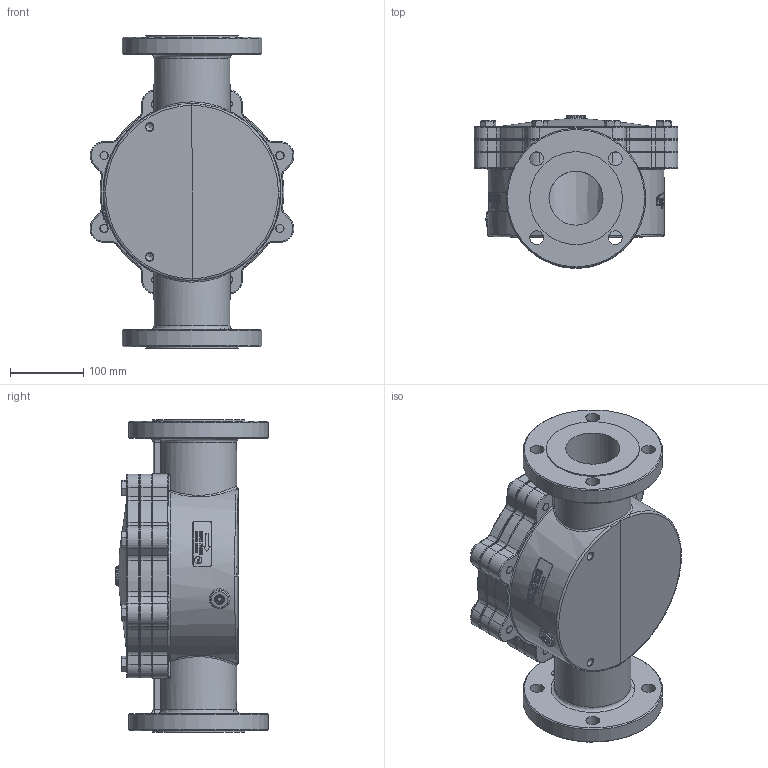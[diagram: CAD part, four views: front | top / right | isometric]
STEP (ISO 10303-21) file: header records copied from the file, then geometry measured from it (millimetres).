
FILE_DESCRIPTION(/* description */ (''),/* implementation_level */ '2;1');
FILE_NAME(/* name */ 'IC24SFH0 External Assembly.stp',/* time_stamp */ '2025-12-05T09:56:47-05:00',/* author */ ('mkowall'),/* organization */ (''),/* preprocessor_version */ 'ST-DEVELOPER v19.2',/* originating_system */ 'Autodesk Inventor 2023',/* authorisation */ '');
FILE_SCHEMA (('AUTOMOTIVE_DESIGN { 1 0 10303 214 3 1 1 }'));
Products named in the file (2): IC24SFH0 External Assembly; IC24SFH0 External Assembly_Simplify_1
Assembly tree (1 placements, depth 2):
  IC24SFH0 External Assembly
    IC24SFH0 External Assembly_Simplify_1
Bounding box: 278.64 x 208.9 x 426.97 mm (x, y, z)
Volume: 6068110.3 mm3; surface area: 973746.4 mm2
Topology: 13 solids, 13 shells, 2203 faces, 5781 edges, 3719 vertices
Faces by surface type: plane 971, bspline 602, cylinder 334, torus 202, cone 89, sphere 5
Full cylindrical faces by diameter (mm): 7.747 x1, 8.382 x4, 10.716 x10, 10.719 x1, 11.125 x1, 12.7 x8, 13.106 x24, 13.716 x1, 17.145 x8, 19.05 x8, 25.4 x2, 73.914 x2, 101.752 x1, 111.328 x1, 127 x2, 190.983 x2, 212.827 x1, 222.326 x1, 225.501 x2, 235.026 x2
Entity records: 99545 total; most frequent: CARTESIAN_POINT 47055, ORIENTED_EDGE 11522, DIRECTION 10037, EDGE_CURVE 5761, VERTEX_POINT 3719, AXIS2_PLACEMENT_3D 3492, LINE 3053, VECTOR 3053
